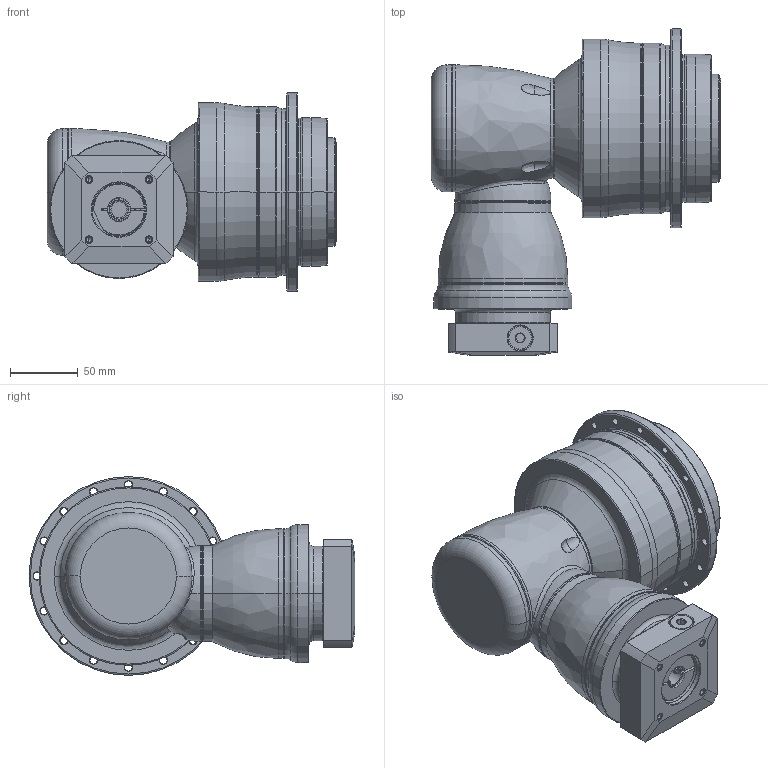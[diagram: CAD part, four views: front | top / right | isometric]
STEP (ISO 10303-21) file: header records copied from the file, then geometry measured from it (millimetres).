
FILE_DESCRIPTION((''),'2;1');
FILE_NAME('APK110_3ST_14-P0409320201_ASM','2018-07-04T',('D00080'),(''),'PRO/ENGINEER BY PARAMETRIC TECHNOLOGY CORPORATION, 2008170','PRO/ENGINEER BY PARAMETRIC TECHNOLOGY CORPORATION, 2008170','');
FILE_SCHEMA(('CONFIG_CONTROL_DESIGN'));
Length unit declared in the file: millimetre
Products named in the file (13): P1008300002; P1832400001; P0278401003; P0359401103; P1211400001; P1315300001; P1007301001; P1318310101; P0503300006; P0129351001; P0409320201; 21711412017; APK110_3ST_14-P0409320201_ASM
Assembly tree (12 placements, depth 2):
  APK110_3ST_14-P0409320201_ASM
    P1008300002
    P1832400001
    P0278401003
    P0359401103
    P1211400001
    P1315300001
    P1007301001
    P1318310101
    P0503300006
    P0129351001
    P0409320201
    21711412017
Bounding box: 214 x 241 x 147 mm (x, y, z)
Volume: 2556626.9 mm3; surface area: 340513.5 mm2
Topology: 13 solids, 34 shells, 698 faces, 1592 edges, 959 vertices
Faces by surface type: cylinder 281, cone 178, plane 125, torus 83, bspline 29, sphere 2
Entity records: 23232 total; most frequent: CARTESIAN_POINT 7050, DIRECTION 3708, ORIENTED_EDGE 3002, AXIS2_PLACEMENT_3D 1595, EDGE_CURVE 1544, VERTEX_POINT 953, CIRCLE 891, EDGE_LOOP 825
